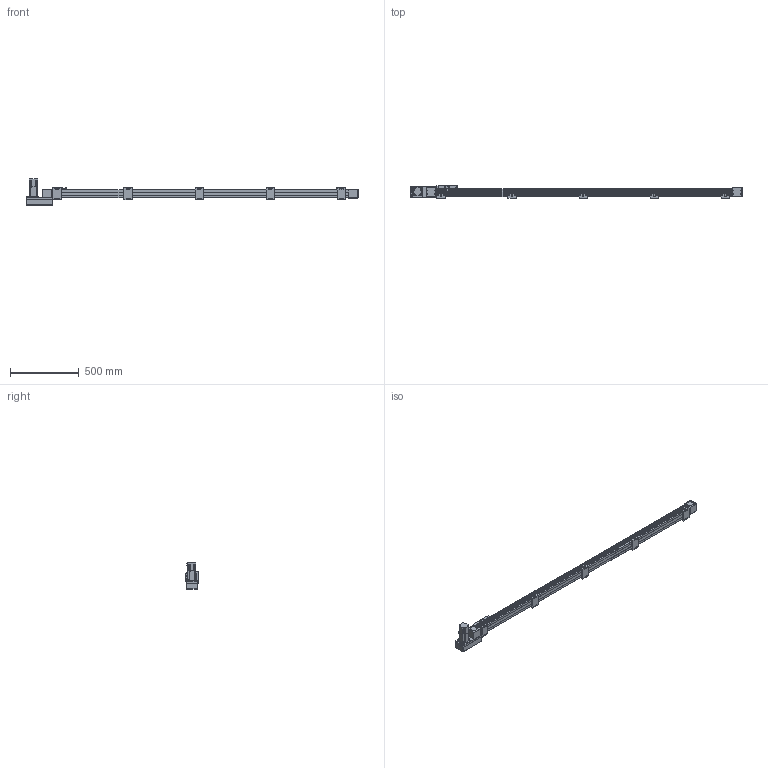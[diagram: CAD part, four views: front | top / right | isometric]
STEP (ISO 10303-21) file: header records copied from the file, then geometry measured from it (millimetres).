
FILE_DESCRIPTION(/* description */ ('STEP AP214'),/* implementation_level */ '2;1');
FILE_NAME(/* name */ 'SK60-P13-S2000-L-T40-C1-N(0)',/* time_stamp */ '2023-04-06T04:11:41+02:00',/* author */ ('License CC BY-ND 4.0'),/* organization */ ('CADENAS'),/* preprocessor_version */ 'ST-DEVELOPER v19.3',/* originating_system */ 'PARTsolutions',/* authorisation */ ' ');
FILE_SCHEMA (('AUTOMOTIVE_DESIGN {1 0 10303 214 3 1 1}'));
Length unit declared in the file: millimetre
Products named in the file (10): SK60-P13-S2000-L-T40-C1-N(0); PSC140-sensor; SK60-S450_seat; SK60-S450-BL-C1_slider; SK60_body3; SK60_body6; SK60-BL_body2; T40-p1; SK60-L_fb; SK60-S2000-L-C1_body
Assembly tree (19 placements, depth 2):
  SK60-P13-S2000-L-T40-C1-N(0)
    PSC140-sensor  x3
    SK60-S450_seat  x5
    SK60-S450-BL-C1_slider
    SK60_body3  x3
    SK60_body6  x2
    SK60-BL_body2  x2
    T40-p1
    SK60-L_fb
    SK60-S2000-L-C1_body
Bounding box: 2420.5 x 90 x 189.7 mm (x, y, z)
Volume: 9067024 mm3; surface area: 1091717.8 mm2
Topology: 19 solids, 19 shells, 942 faces, 2342 edges, 1541 vertices
Faces by surface type: plane 596, cylinder 310, cone 34, torus 2
Full cylindrical faces by diameter (mm): 2.8 x3, 3.3 x4, 4 x2, 4.5 x30, 4.6 x3, 4.917 x28, 5 x6, 5.478 x4, 5.5 x31, 6.5 x10, 7 x2, 8 x4, 8.5 x4, 9.988 x4, 10 x20, 14 x1, 47 x3, 50 x2
Entity records: 18679 total; most frequent: DIRECTION 3190, CARTESIAN_POINT 3153, ORIENTED_EDGE 2940, EDGE_CURVE 1470, AXIS2_PLACEMENT_3D 1071, LINE 1048, VECTOR 1048, VERTEX_POINT 1034
